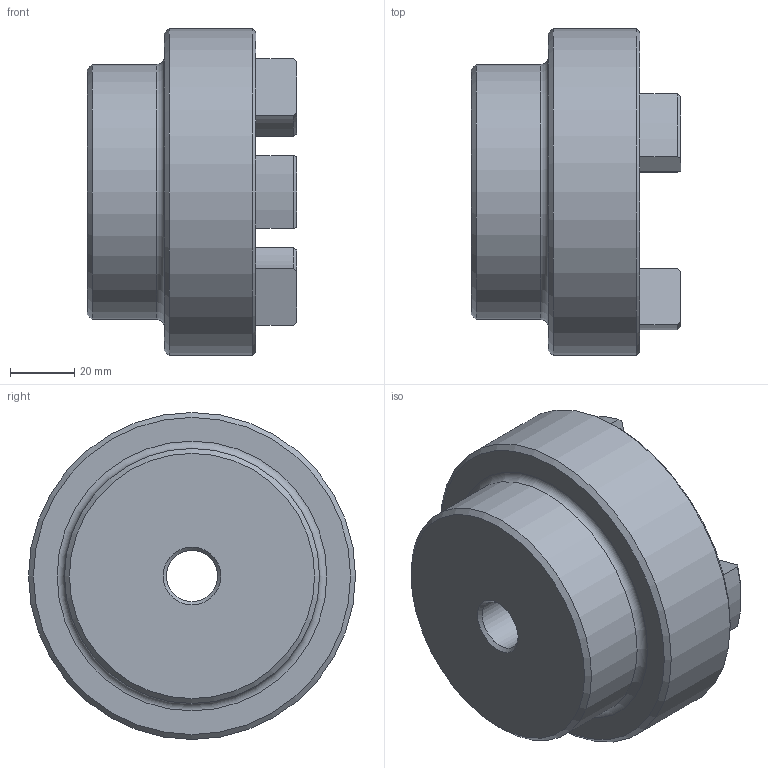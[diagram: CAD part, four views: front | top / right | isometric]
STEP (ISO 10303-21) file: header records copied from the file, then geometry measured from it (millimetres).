
FILE_DESCRIPTION (( 'STEP AP203' ), '1' );
FILE_NAME ('RC4.step', '2024-07-24T17:49:10', ( 'Adlan' ), ( '' ), 'SwSTEP 2.0', 'SolidWorks 2013', '' );
FILE_SCHEMA (( 'CONFIG_CONTROL_DESIGN' ));
Length unit declared in the file: inch
Products named in the file (1): RC4
Bounding box: 65.02 x 101.6 x 101.6 mm (x, y, z)
Volume: 273385.8 mm3; surface area: 39752.4 mm2
Topology: 1 solids, 1 shells, 60 faces, 146 edges, 90 vertices
Faces by surface type: cylinder 24, plane 13, torus 13, cone 10
Full cylindrical faces by diameter (mm): 15.883 x1, 79.248 x1, 101.6 x1
Entity records: 1841 total; most frequent: CARTESIAN_POINT 341, DIRECTION 324, ORIENTED_EDGE 274, EDGE_CURVE 137, AXIS2_PLACEMENT_3D 132, VERTEX_POINT 89, EDGE_LOOP 72, CIRCLE 71
